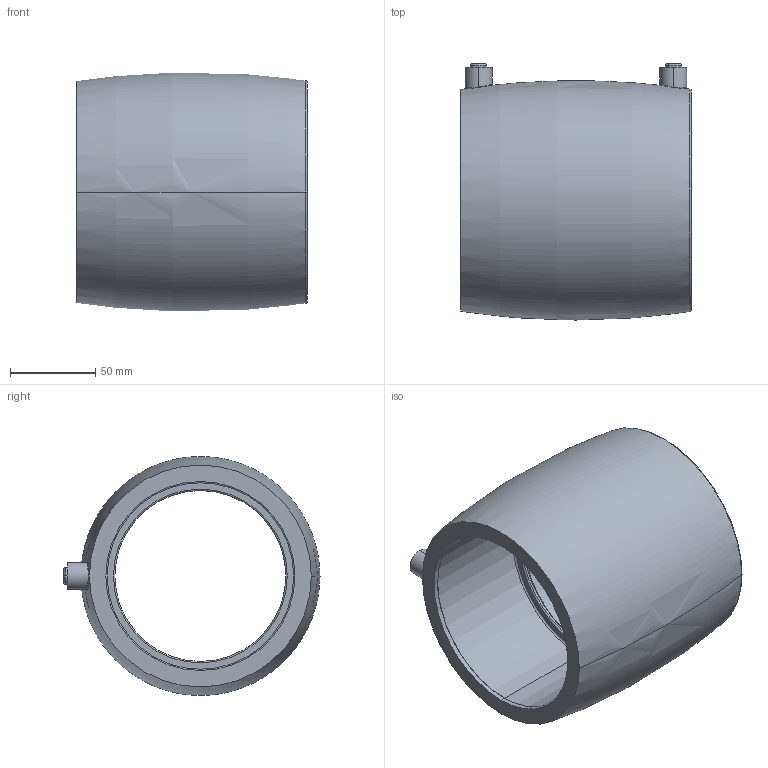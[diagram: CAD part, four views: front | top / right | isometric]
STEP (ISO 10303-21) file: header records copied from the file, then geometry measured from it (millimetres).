
FILE_DESCRIPTION (( 'STEP AP203' ), '1' );
FILE_NAME ('KP_2-110.step', '2011-08-08T12:05:43', ( '' ), ( '' ), 'SwSTEP 2.0', 'SolidWorks 2011', '' );
FILE_SCHEMA (( 'CONFIG_CONTROL_DESIGN' ));
Length unit declared in the file: millimetre
Products named in the file (1): KP_2-110
Bounding box: 135 x 149.8 x 139.67 mm (x, y, z)
Volume: 677180.6 mm3; surface area: 142229.8 mm2
Topology: 1 solids, 5 shells, 164 faces, 384 edges, 242 vertices
Faces by surface type: cylinder 84, plane 22, torus 20, cone 20, bspline 18
Entity records: 10081 total; most frequent: CARTESIAN_POINT 6573, ORIENTED_EDGE 768, DIRECTION 674, EDGE_CURVE 384, AXIS2_PLACEMENT_3D 283, VERTEX_POINT 242, EDGE_LOOP 178, FACE_OUTER_BOUND 164
